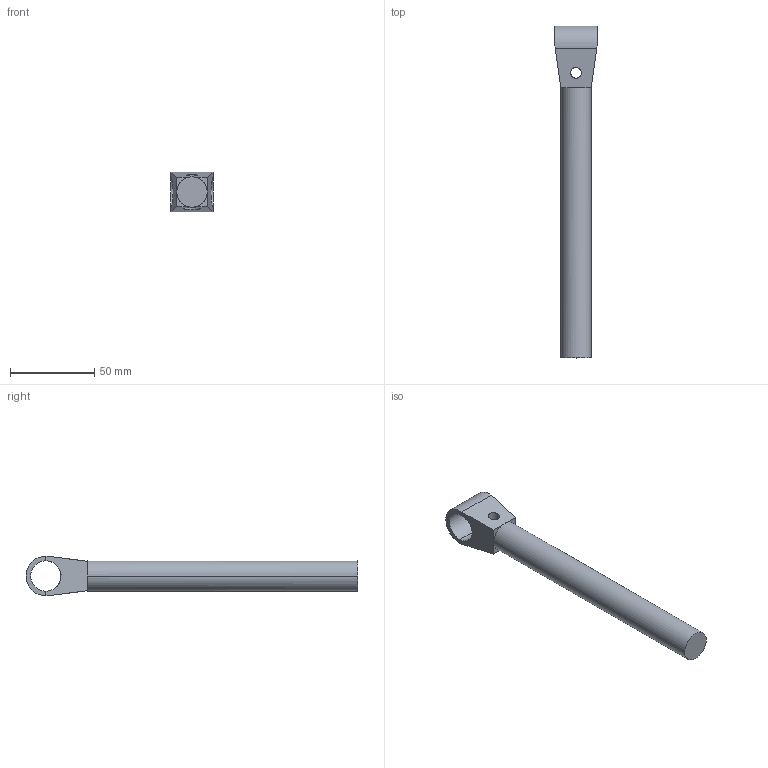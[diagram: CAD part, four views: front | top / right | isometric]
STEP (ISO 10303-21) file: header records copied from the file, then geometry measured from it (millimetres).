
FILE_DESCRIPTION (( 'STEP AP214' ), '1' );
FILE_NAME ('FGRL 18X160CA.step', '2017-04-05T07:43:36', ( '' ), ( '' ), 'SwSTEP 2.0', 'SolidWorks 2015', '' );
FILE_SCHEMA (( 'AUTOMOTIVE_DESIGN' ));
Length unit declared in the file: millimetre
Products named in the file (1): FGRL 18X160CA
Bounding box: 25 x 196.68 x 23.5 mm (x, y, z)
Volume: 50193.1 mm3; surface area: 14068.7 mm2
Topology: 1 solids, 1 shells, 24 faces, 61 edges, 38 vertices
Faces by surface type: plane 14, cylinder 10
Entity records: 765 total; most frequent: CARTESIAN_POINT 154, DIRECTION 123, ORIENTED_EDGE 122, EDGE_CURVE 61, AXIS2_PLACEMENT_3D 47, VERTEX_POINT 38, LINE 29, VECTOR 29
